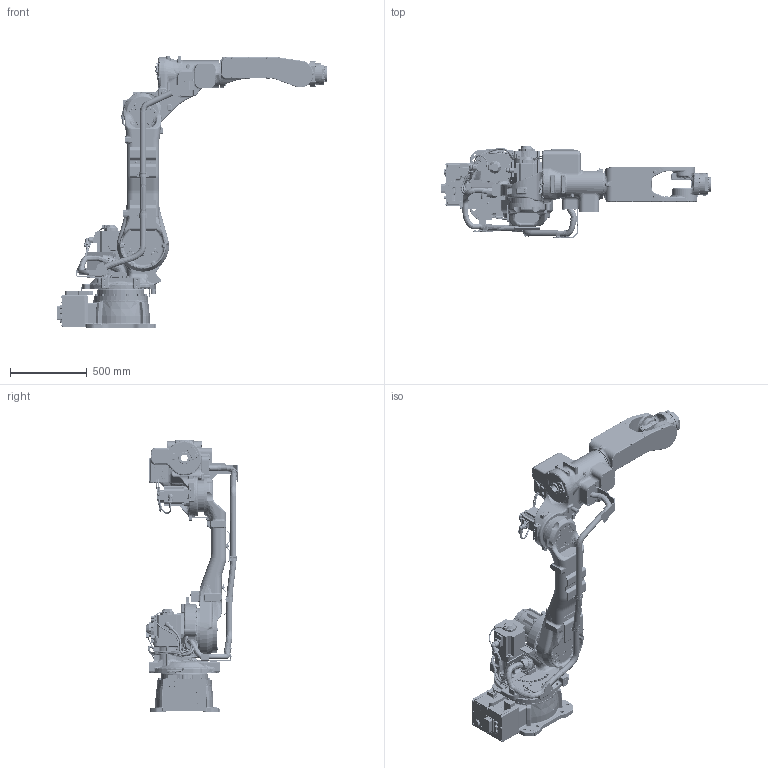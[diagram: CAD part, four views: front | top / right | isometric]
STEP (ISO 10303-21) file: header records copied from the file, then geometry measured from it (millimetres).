
FILE_DESCRIPTION (( 'STEP AP214' ), '1' );
FILE_NAME ('GP35H.STEP', '2024-09-10T11:44:26', ( '' ), ( '' ), 'SwSTEP 2.0', 'SolidWorks 2024', '' );
FILE_SCHEMA (( 'AUTOMOTIVE_DESIGN' ));
Length unit declared in the file: millimetre
Products named in the file (8): GP35H_B_AXIS^GP35H; GP35H; GP35_T_AXIS^GP35H; GP35H_R_AXIS^GP35H; GP35H_L_AXIS^GP35H; GP35H_S_AXIS^GP35H; GP35H_U_AXIS^GP35H; GP35H_BASE_AXIS^GP35H
Assembly tree (7 placements, depth 2):
  GP35H
    GP35H_BASE_AXIS^GP35H
    GP35H_S_AXIS^GP35H
    GP35H_L_AXIS^GP35H
    GP35H_U_AXIS^GP35H
    GP35H_R_AXIS^GP35H
    GP35H_B_AXIS^GP35H
    GP35_T_AXIS^GP35H
Bounding box: 1759.85 x 604.68 x 1780 mm (x, y, z)
Volume: 102838935.4 mm3; surface area: 6128932.3 mm2
Topology: 4 solids, 34 shells, 10591 faces, 26844 edges, 16889 vertices
Faces by surface type: cylinder 3828, plane 3769, bspline 1764, cone 905, torus 277, sphere 48
Entity records: 517844 total; most frequent: CARTESIAN_POINT 276057, ORIENTED_EDGE 53310, DIRECTION 45540, EDGE_CURVE 26697, AXIS2_PLACEMENT_3D 17474, VERTEX_POINT 16887, EDGE_LOOP 11662, FACE_OUTER_BOUND 10593
